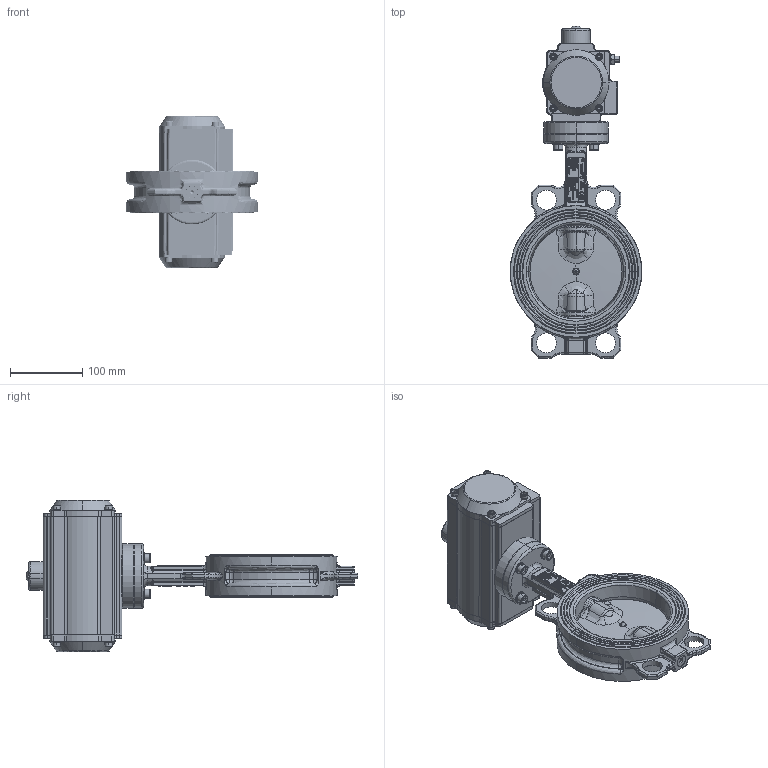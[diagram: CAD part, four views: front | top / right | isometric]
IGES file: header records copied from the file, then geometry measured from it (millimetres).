
Start section: SolidWorks IGES file using NURBS representation for surfaces
Global section: file name: H:\BE BIBLIOTHEQUE 3D\VPN-03 PNEUMATIC ACTUATOR (DN40 à 300)\VPN-03 DN125\VPN-03 DN125.IGS; native system: SolidWorks 2011; preprocessor: SolidWorks 2011; author: a.cartier; date: 140620.100310; units: millimetre
Bounding box: 182.5 x 460.62 x 210.28 mm (x, y, z)
Volume: 1980426.9 mm3; surface area: 557966.6 mm2
Topology: 68 solids, 68 shells, 5084 faces, 12980 edges, 8400 vertices
Faces by surface type: bspline 5084
